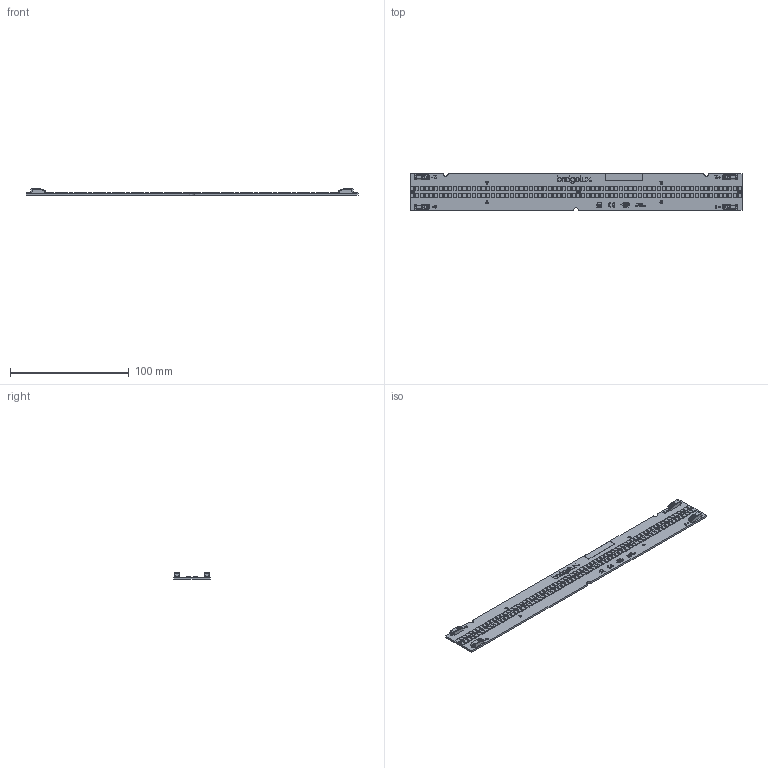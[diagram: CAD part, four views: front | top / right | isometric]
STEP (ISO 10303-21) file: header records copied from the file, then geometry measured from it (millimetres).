
FILE_DESCRIPTION (( 'STEP AP214' ), '1' );
FILE_NAME ('BXEB-TL-L1120Z ver. B (15-000720 revB).STEP', '2020-11-03T02:40:38', ( '' ), ( '' ), 'SwSTEP 2.0', 'SolidWorks 2020', '' );
FILE_SCHEMA (( 'AUTOMOTIVE_DESIGN' ));
Length unit declared in the file: millimetre
Products named in the file (1): BXEB-TL-L1120Z ver. B (15-000720 revB)
Bounding box: 280 x 31 x 5.55 mm (x, y, z)
Volume: 15445.8 mm3; surface area: 23278.8 mm2
Topology: 145 solids, 145 shells, 4031 faces, 10443 edges, 7002 vertices
Faces by surface type: plane 3357, bspline 425, cylinder 241, cone 8
Full cylindrical faces by diameter (mm): 0.597 x1, 1.019 x1, 1.1 x2, 1.102 x2, 2 x4
Entity records: 184697 total; most frequent: CARTESIAN_POINT 44916, ORIENTED_EDGE 20842, DIRECTION 15991, EDGE_CURVE 10421, LINE 8621, VECTOR 8621, VERTEX_POINT 6998, EDGE_LOOP 4349
